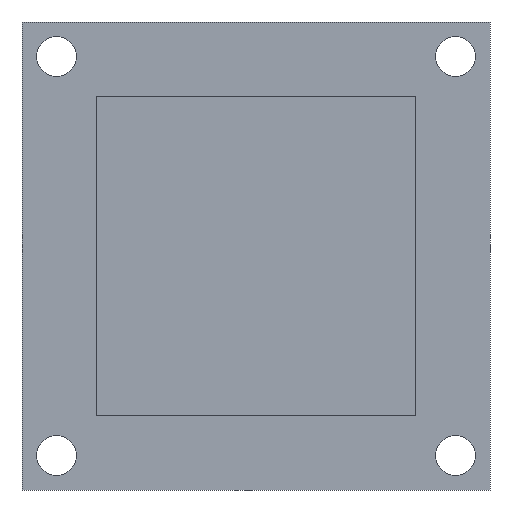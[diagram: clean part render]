
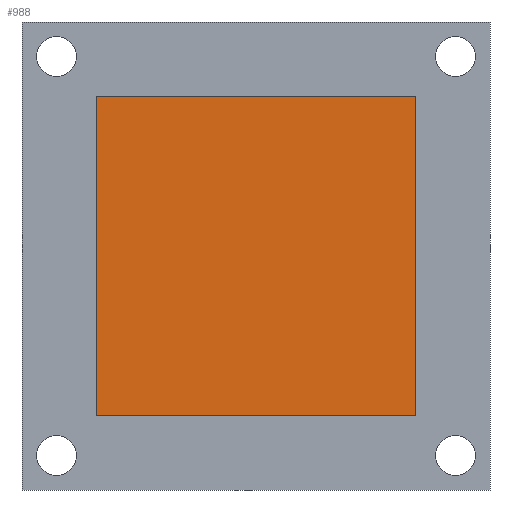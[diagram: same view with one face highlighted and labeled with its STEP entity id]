
A CAD part, left-side view. The second image highlights one B-rep face of the part: STEP entity #988.
In plain terms, the highlighted planar face has unit normal (-1, 0, 0).
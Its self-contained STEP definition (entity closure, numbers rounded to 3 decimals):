
#250 = PLANE('',#251);
#251 = AXIS2_PLACEMENT_3D('',#252,#253,#254);
#252 = CARTESIAN_POINT('',(58.,16.2,8.2));
#253 = DIRECTION('',(0.,0.,1.));
#254 = DIRECTION('',(1.,0.,-0.));
#276 = PLANE('',#277);
#277 = AXIS2_PLACEMENT_3D('',#278,#279,#280);
#278 = CARTESIAN_POINT('',(58.,16.2,8.2));
#279 = DIRECTION('',(-0.,1.,0.));
#280 = DIRECTION('',(0.,0.,1.));
#302 = PLANE('',#303);
#303 = AXIS2_PLACEMENT_3D('',#304,#305,#306);
#304 = CARTESIAN_POINT('',(58.,16.2,25.8));
#305 = DIRECTION('',(0.,0.,1.));
#306 = DIRECTION('',(1.,0.,-0.));
#326 = PLANE('',#327);
#327 = AXIS2_PLACEMENT_3D('',#328,#329,#330);
#328 = CARTESIAN_POINT('',(58.,33.8,8.2));
#329 = DIRECTION('',(-0.,1.,0.));
#330 = DIRECTION('',(0.,0.,1.));
#723 = VERTEX_POINT('',#724);
#724 = CARTESIAN_POINT('',(58.,33.8,8.2));
#745 = EDGE_CURVE('',#746,#723,#748,.T.);
#746 = VERTEX_POINT('',#747);
#747 = CARTESIAN_POINT('',(58.,16.2,8.2));
#748 = SURFACE_CURVE('',#749,(#753,#760),.PCURVE_S1.);
#749 = LINE('',#750,#751);
#750 = CARTESIAN_POINT('',(58.,16.2,8.2));
#751 = VECTOR('',#752,1.);
#752 = DIRECTION('',(-0.,1.,0.));
#753 = PCURVE('',#250,#754);
#754 = DEFINITIONAL_REPRESENTATION('',(#755),#759);
#755 = LINE('',#756,#757);
#756 = CARTESIAN_POINT('',(0.,0.));
#757 = VECTOR('',#758,1.);
#758 = DIRECTION('',(0.,1.));
#759 = ( GEOMETRIC_REPRESENTATION_CONTEXT(2) 
PARAMETRIC_REPRESENTATION_CONTEXT() REPRESENTATION_CONTEXT('2D SPACE',''
  ) );
#760 = PCURVE('',#761,#766);
#761 = PLANE('',#762);
#762 = AXIS2_PLACEMENT_3D('',#763,#764,#765);
#763 = CARTESIAN_POINT('',(58.,16.2,8.2));
#764 = DIRECTION('',(1.,0.,-0.));
#765 = DIRECTION('',(0.,0.,1.));
#766 = DEFINITIONAL_REPRESENTATION('',(#767),#771);
#767 = LINE('',#768,#769);
#768 = CARTESIAN_POINT('',(0.,0.));
#769 = VECTOR('',#770,1.);
#770 = DIRECTION('',(0.,-1.));
#771 = ( GEOMETRIC_REPRESENTATION_CONTEXT(2) 
PARAMETRIC_REPRESENTATION_CONTEXT() REPRESENTATION_CONTEXT('2D SPACE',''
  ) );
#799 = EDGE_CURVE('',#723,#800,#802,.T.);
#800 = VERTEX_POINT('',#801);
#801 = CARTESIAN_POINT('',(58.,33.8,25.8));
#802 = SURFACE_CURVE('',#803,(#807,#814),.PCURVE_S1.);
#803 = LINE('',#804,#805);
#804 = CARTESIAN_POINT('',(58.,33.8,8.2));
#805 = VECTOR('',#806,1.);
#806 = DIRECTION('',(0.,0.,1.));
#807 = PCURVE('',#326,#808);
#808 = DEFINITIONAL_REPRESENTATION('',(#809),#813);
#809 = LINE('',#810,#811);
#810 = CARTESIAN_POINT('',(0.,0.));
#811 = VECTOR('',#812,1.);
#812 = DIRECTION('',(1.,0.));
#813 = ( GEOMETRIC_REPRESENTATION_CONTEXT(2) 
PARAMETRIC_REPRESENTATION_CONTEXT() REPRESENTATION_CONTEXT('2D SPACE',''
  ) );
#814 = PCURVE('',#761,#815);
#815 = DEFINITIONAL_REPRESENTATION('',(#816),#820);
#816 = LINE('',#817,#818);
#817 = CARTESIAN_POINT('',(0.,-17.6));
#818 = VECTOR('',#819,1.);
#819 = DIRECTION('',(1.,0.));
#820 = ( GEOMETRIC_REPRESENTATION_CONTEXT(2) 
PARAMETRIC_REPRESENTATION_CONTEXT() REPRESENTATION_CONTEXT('2D SPACE',''
  ) );
#848 = EDGE_CURVE('',#746,#849,#851,.T.);
#849 = VERTEX_POINT('',#850);
#850 = CARTESIAN_POINT('',(58.,16.2,25.8));
#851 = SURFACE_CURVE('',#852,(#856,#863),.PCURVE_S1.);
#852 = LINE('',#853,#854);
#853 = CARTESIAN_POINT('',(58.,16.2,8.2));
#854 = VECTOR('',#855,1.);
#855 = DIRECTION('',(0.,0.,1.));
#856 = PCURVE('',#276,#857);
#857 = DEFINITIONAL_REPRESENTATION('',(#858),#862);
#858 = LINE('',#859,#860);
#859 = CARTESIAN_POINT('',(0.,0.));
#860 = VECTOR('',#861,1.);
#861 = DIRECTION('',(1.,0.));
#862 = ( GEOMETRIC_REPRESENTATION_CONTEXT(2) 
PARAMETRIC_REPRESENTATION_CONTEXT() REPRESENTATION_CONTEXT('2D SPACE',''
  ) );
#863 = PCURVE('',#761,#864);
#864 = DEFINITIONAL_REPRESENTATION('',(#865),#869);
#865 = LINE('',#866,#867);
#866 = CARTESIAN_POINT('',(0.,0.));
#867 = VECTOR('',#868,1.);
#868 = DIRECTION('',(1.,0.));
#869 = ( GEOMETRIC_REPRESENTATION_CONTEXT(2) 
PARAMETRIC_REPRESENTATION_CONTEXT() REPRESENTATION_CONTEXT('2D SPACE',''
  ) );
#897 = EDGE_CURVE('',#849,#800,#898,.T.);
#898 = SURFACE_CURVE('',#899,(#903,#910),.PCURVE_S1.);
#899 = LINE('',#900,#901);
#900 = CARTESIAN_POINT('',(58.,16.2,25.8));
#901 = VECTOR('',#902,1.);
#902 = DIRECTION('',(-0.,1.,0.));
#903 = PCURVE('',#302,#904);
#904 = DEFINITIONAL_REPRESENTATION('',(#905),#909);
#905 = LINE('',#906,#907);
#906 = CARTESIAN_POINT('',(0.,0.));
#907 = VECTOR('',#908,1.);
#908 = DIRECTION('',(0.,1.));
#909 = ( GEOMETRIC_REPRESENTATION_CONTEXT(2) 
PARAMETRIC_REPRESENTATION_CONTEXT() REPRESENTATION_CONTEXT('2D SPACE',''
  ) );
#910 = PCURVE('',#761,#911);
#911 = DEFINITIONAL_REPRESENTATION('',(#912),#916);
#912 = LINE('',#913,#914);
#913 = CARTESIAN_POINT('',(17.6,0.));
#914 = VECTOR('',#915,1.);
#915 = DIRECTION('',(0.,-1.));
#916 = ( GEOMETRIC_REPRESENTATION_CONTEXT(2) 
PARAMETRIC_REPRESENTATION_CONTEXT() REPRESENTATION_CONTEXT('2D SPACE',''
  ) );
#988 = ADVANCED_FACE('',(#989),#761,.F.);
#989 = FACE_BOUND('',#990,.F.);
#990 = EDGE_LOOP('',(#991,#992,#993,#994));
#991 = ORIENTED_EDGE('',*,*,#848,.F.);
#992 = ORIENTED_EDGE('',*,*,#745,.T.);
#993 = ORIENTED_EDGE('',*,*,#799,.T.);
#994 = ORIENTED_EDGE('',*,*,#897,.F.);
